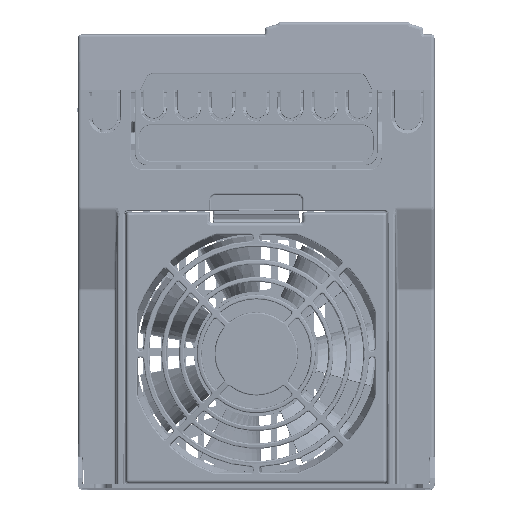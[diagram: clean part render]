
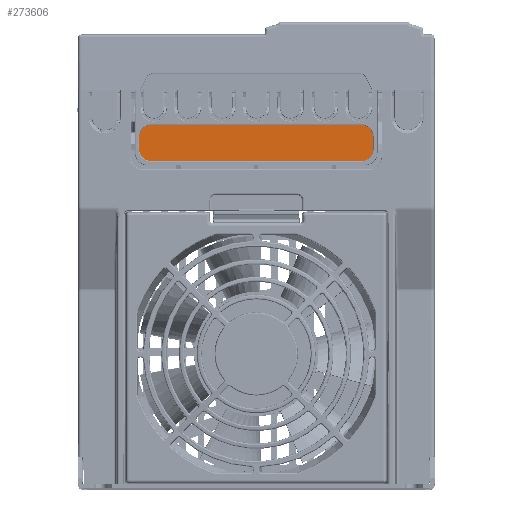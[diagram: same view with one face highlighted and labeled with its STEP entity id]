
A CAD part, top view. The second image highlights one B-rep face of the part: STEP entity #273606.
In plain terms, the highlighted planar face has unit normal (0, 0, 1).
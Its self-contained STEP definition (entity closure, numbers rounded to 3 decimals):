
#19646=FACE_OUTER_BOUND('',#34969,.T.);
#34969=EDGE_LOOP('',(#192317,#192318,#192319,#192320,#192321,#192322,#192323,
#192324));
#53502=LINE('',#441336,#80469);
#53505=LINE('',#441344,#80472);
#53508=LINE('',#441352,#80475);
#53511=LINE('',#441359,#80478);
#80469=VECTOR('',#324085,5.5);
#80472=VECTOR('',#324094,101.);
#80475=VECTOR('',#324103,5.5);
#80478=VECTOR('',#324112,101.);
#102532=CIRCLE('',#291023,5.991);
#102533=CIRCLE('',#291026,5.991);
#102534=CIRCLE('',#291029,5.991);
#102535=CIRCLE('',#291032,5.991);
#112251=VERTEX_POINT('',#441329);
#112252=VERTEX_POINT('',#441331);
#112253=VERTEX_POINT('',#441335);
#112254=VERTEX_POINT('',#441339);
#112255=VERTEX_POINT('',#441343);
#112256=VERTEX_POINT('',#441347);
#112257=VERTEX_POINT('',#441351);
#112258=VERTEX_POINT('',#441355);
#141633=EDGE_CURVE('',#112252,#112251,#102532,.T.);
#141635=EDGE_CURVE('',#112253,#112252,#53502,.T.);
#141637=EDGE_CURVE('',#112254,#112253,#102533,.T.);
#141639=EDGE_CURVE('',#112255,#112254,#53505,.T.);
#141641=EDGE_CURVE('',#112256,#112255,#102534,.T.);
#141643=EDGE_CURVE('',#112257,#112256,#53508,.T.);
#141645=EDGE_CURVE('',#112258,#112257,#102535,.T.);
#141647=EDGE_CURVE('',#112251,#112258,#53511,.T.);
#192317=ORIENTED_EDGE('',*,*,#141635,.T.);
#192318=ORIENTED_EDGE('',*,*,#141633,.T.);
#192319=ORIENTED_EDGE('',*,*,#141647,.T.);
#192320=ORIENTED_EDGE('',*,*,#141645,.T.);
#192321=ORIENTED_EDGE('',*,*,#141643,.T.);
#192322=ORIENTED_EDGE('',*,*,#141641,.T.);
#192323=ORIENTED_EDGE('',*,*,#141639,.T.);
#192324=ORIENTED_EDGE('',*,*,#141637,.T.);
#249729=PLANE('',#291034);
#273606=ADVANCED_FACE('',(#19646),#249729,.T.);
#291023=AXIS2_PLACEMENT_3D('',#441332,#324080,#324081);
#291026=AXIS2_PLACEMENT_3D('',#441340,#324089,#324090);
#291029=AXIS2_PLACEMENT_3D('',#441348,#324098,#324099);
#291032=AXIS2_PLACEMENT_3D('',#441356,#324107,#324108);
#291034=AXIS2_PLACEMENT_3D('',#441360,#324113,#324114);
#324080=DIRECTION('center_axis',(0.,0.,1.));
#324081=DIRECTION('ref_axis',(1.,0.,0.));
#324085=DIRECTION('',(0.,1.,0.));
#324089=DIRECTION('center_axis',(0.,0.,1.));
#324090=DIRECTION('ref_axis',(0.,-1.,0.));
#324094=DIRECTION('',(1.,0.,0.));
#324098=DIRECTION('center_axis',(0.,0.,1.));
#324099=DIRECTION('ref_axis',(-1.,0.,0.));
#324103=DIRECTION('',(0.,-1.,0.));
#324107=DIRECTION('center_axis',(0.,0.,1.));
#324108=DIRECTION('ref_axis',(0.,1.,0.));
#324112=DIRECTION('',(-1.,0.,0.));
#324113=DIRECTION('center_axis',(0.,0.,1.));
#324114=DIRECTION('ref_axis',(1.,0.,0.));
#441329=CARTESIAN_POINT('',(50.5,175.391,214.));
#441331=CARTESIAN_POINT('',(56.491,169.4,214.));
#441332=CARTESIAN_POINT('Origin',(50.5,169.4,214.));
#441335=CARTESIAN_POINT('',(56.491,163.9,214.));
#441336=CARTESIAN_POINT('',(56.491,163.9,214.));
#441339=CARTESIAN_POINT('',(50.5,157.909,214.));
#441340=CARTESIAN_POINT('Origin',(50.5,163.9,214.));
#441343=CARTESIAN_POINT('',(-50.5,157.909,214.));
#441344=CARTESIAN_POINT('',(-50.5,157.909,214.));
#441347=CARTESIAN_POINT('',(-56.491,163.9,214.));
#441348=CARTESIAN_POINT('Origin',(-50.5,163.9,214.));
#441351=CARTESIAN_POINT('',(-56.491,169.4,214.));
#441352=CARTESIAN_POINT('',(-56.491,169.4,214.));
#441355=CARTESIAN_POINT('',(-50.5,175.391,214.));
#441356=CARTESIAN_POINT('Origin',(-50.5,169.4,214.));
#441359=CARTESIAN_POINT('',(50.5,175.391,214.));
#441360=CARTESIAN_POINT('Origin',(0.,0.,214.));
